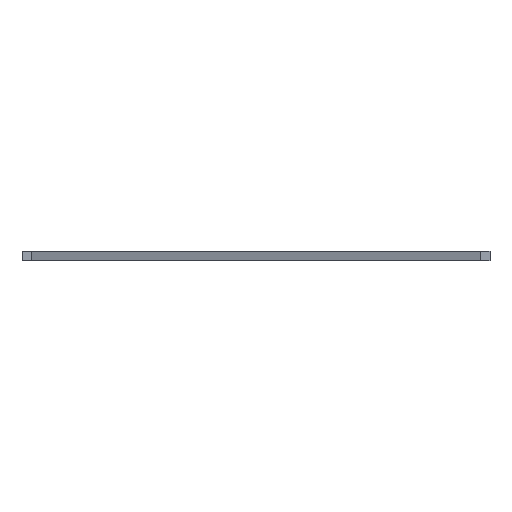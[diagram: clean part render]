
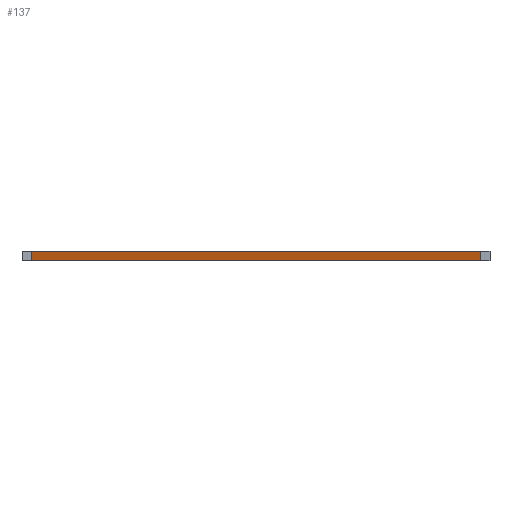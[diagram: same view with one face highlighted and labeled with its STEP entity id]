
A CAD part, left-side view. The second image highlights one B-rep face of the part: STEP entity #137.
In plain terms, the highlighted planar face has unit normal (-0.932, 0.361, 0).
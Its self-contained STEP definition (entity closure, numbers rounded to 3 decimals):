
#21 = EDGE_CURVE('',#22,#24,#26,.T.);
#22 = VERTEX_POINT('',#23);
#23 = CARTESIAN_POINT('',(19.306,18.,0.));
#24 = VERTEX_POINT('',#25);
#25 = CARTESIAN_POINT('',(19.306,18.,18.));
#26 = SURFACE_CURVE('',#27,(#31,#43),.PCURVE_S1.);
#27 = LINE('',#28,#29);
#28 = CARTESIAN_POINT('',(19.306,18.,0.));
#29 = VECTOR('',#30,1.);
#30 = DIRECTION('',(0.,0.,1.));
#31 = PCURVE('',#32,#37);
#32 = PLANE('',#33);
#33 = AXIS2_PLACEMENT_3D('',#34,#35,#36);
#34 = CARTESIAN_POINT('',(19.306,18.,0.));
#35 = DIRECTION('',(0.,1.,0.));
#36 = DIRECTION('',(1.,0.,0.));
#37 = DEFINITIONAL_REPRESENTATION('',(#38),#42);
#38 = LINE('',#39,#40);
#39 = CARTESIAN_POINT('',(0.,0.));
#40 = VECTOR('',#41,1.);
#41 = DIRECTION('',(0.,-1.));
#42 = ( GEOMETRIC_REPRESENTATION_CONTEXT(2) 
PARAMETRIC_REPRESENTATION_CONTEXT() REPRESENTATION_CONTEXT('2D SPACE',''
  ) );
#43 = PCURVE('',#44,#49);
#44 = PLANE('',#45);
#45 = AXIS2_PLACEMENT_3D('',#46,#47,#48);
#46 = CARTESIAN_POINT('',(354.306,882.,0.));
#47 = DIRECTION('',(0.932,-0.362,0.));
#48 = DIRECTION('',(-0.362,-0.932,0.));
#49 = DEFINITIONAL_REPRESENTATION('',(#50),#54);
#50 = LINE('',#51,#52);
#51 = CARTESIAN_POINT('',(926.672,0.));
#52 = VECTOR('',#53,1.);
#53 = DIRECTION('',(0.,-1.));
#54 = ( GEOMETRIC_REPRESENTATION_CONTEXT(2) 
PARAMETRIC_REPRESENTATION_CONTEXT() REPRESENTATION_CONTEXT('2D SPACE',''
  ) );
#72 = PLANE('',#73);
#73 = AXIS2_PLACEMENT_3D('',#74,#75,#76);
#74 = CARTESIAN_POINT('',(525.,358.504,18.));
#75 = DIRECTION('',(0.,0.,1.));
#76 = DIRECTION('',(1.,0.,-0.));
#126 = PLANE('',#127);
#127 = AXIS2_PLACEMENT_3D('',#128,#129,#130);
#128 = CARTESIAN_POINT('',(525.,358.504,0.));
#129 = DIRECTION('',(0.,0.,1.));
#130 = DIRECTION('',(1.,0.,-0.));
#137 = ADVANCED_FACE('',(#138),#44,.F.);
#138 = FACE_BOUND('',#139,.F.);
#139 = EDGE_LOOP('',(#140,#170,#191,#192));
#140 = ORIENTED_EDGE('',*,*,#141,.T.);
#141 = EDGE_CURVE('',#142,#144,#146,.T.);
#142 = VERTEX_POINT('',#143);
#143 = CARTESIAN_POINT('',(354.306,882.,0.));
#144 = VERTEX_POINT('',#145);
#145 = CARTESIAN_POINT('',(354.306,882.,18.));
#146 = SURFACE_CURVE('',#147,(#151,#158),.PCURVE_S1.);
#147 = LINE('',#148,#149);
#148 = CARTESIAN_POINT('',(354.306,882.,0.));
#149 = VECTOR('',#150,1.);
#150 = DIRECTION('',(0.,0.,1.));
#151 = PCURVE('',#44,#152);
#152 = DEFINITIONAL_REPRESENTATION('',(#153),#157);
#153 = LINE('',#154,#155);
#154 = CARTESIAN_POINT('',(0.,0.));
#155 = VECTOR('',#156,1.);
#156 = DIRECTION('',(0.,-1.));
#157 = ( GEOMETRIC_REPRESENTATION_CONTEXT(2) 
PARAMETRIC_REPRESENTATION_CONTEXT() REPRESENTATION_CONTEXT('2D SPACE',''
  ) );
#158 = PCURVE('',#159,#164);
#159 = PLANE('',#160);
#160 = AXIS2_PLACEMENT_3D('',#161,#162,#163);
#161 = CARTESIAN_POINT('',(380.,882.,0.));
#162 = DIRECTION('',(0.,-1.,0.));
#163 = DIRECTION('',(-1.,0.,0.));
#164 = DEFINITIONAL_REPRESENTATION('',(#165),#169);
#165 = LINE('',#166,#167);
#166 = CARTESIAN_POINT('',(25.694,0.));
#167 = VECTOR('',#168,1.);
#168 = DIRECTION('',(0.,-1.));
#169 = ( GEOMETRIC_REPRESENTATION_CONTEXT(2) 
PARAMETRIC_REPRESENTATION_CONTEXT() REPRESENTATION_CONTEXT('2D SPACE',''
  ) );
#170 = ORIENTED_EDGE('',*,*,#171,.T.);
#171 = EDGE_CURVE('',#144,#24,#172,.T.);
#172 = SURFACE_CURVE('',#173,(#177,#184),.PCURVE_S1.);
#173 = LINE('',#174,#175);
#174 = CARTESIAN_POINT('',(354.306,882.,18.));
#175 = VECTOR('',#176,1.);
#176 = DIRECTION('',(-0.362,-0.932,0.));
#177 = PCURVE('',#44,#178);
#178 = DEFINITIONAL_REPRESENTATION('',(#179),#183);
#179 = LINE('',#180,#181);
#180 = CARTESIAN_POINT('',(0.,-18.));
#181 = VECTOR('',#182,1.);
#182 = DIRECTION('',(1.,0.));
#183 = ( GEOMETRIC_REPRESENTATION_CONTEXT(2) 
PARAMETRIC_REPRESENTATION_CONTEXT() REPRESENTATION_CONTEXT('2D SPACE',''
  ) );
#184 = PCURVE('',#72,#185);
#185 = DEFINITIONAL_REPRESENTATION('',(#186),#190);
#186 = LINE('',#187,#188);
#187 = CARTESIAN_POINT('',(-170.694,523.496));
#188 = VECTOR('',#189,1.);
#189 = DIRECTION('',(-0.362,-0.932));
#190 = ( GEOMETRIC_REPRESENTATION_CONTEXT(2) 
PARAMETRIC_REPRESENTATION_CONTEXT() REPRESENTATION_CONTEXT('2D SPACE',''
  ) );
#191 = ORIENTED_EDGE('',*,*,#21,.F.);
#192 = ORIENTED_EDGE('',*,*,#193,.F.);
#193 = EDGE_CURVE('',#142,#22,#194,.T.);
#194 = SURFACE_CURVE('',#195,(#199,#206),.PCURVE_S1.);
#195 = LINE('',#196,#197);
#196 = CARTESIAN_POINT('',(354.306,882.,0.));
#197 = VECTOR('',#198,1.);
#198 = DIRECTION('',(-0.362,-0.932,0.));
#199 = PCURVE('',#44,#200);
#200 = DEFINITIONAL_REPRESENTATION('',(#201),#205);
#201 = LINE('',#202,#203);
#202 = CARTESIAN_POINT('',(0.,0.));
#203 = VECTOR('',#204,1.);
#204 = DIRECTION('',(1.,0.));
#205 = ( GEOMETRIC_REPRESENTATION_CONTEXT(2) 
PARAMETRIC_REPRESENTATION_CONTEXT() REPRESENTATION_CONTEXT('2D SPACE',''
  ) );
#206 = PCURVE('',#126,#207);
#207 = DEFINITIONAL_REPRESENTATION('',(#208),#212);
#208 = LINE('',#209,#210);
#209 = CARTESIAN_POINT('',(-170.694,523.496));
#210 = VECTOR('',#211,1.);
#211 = DIRECTION('',(-0.362,-0.932));
#212 = ( GEOMETRIC_REPRESENTATION_CONTEXT(2) 
PARAMETRIC_REPRESENTATION_CONTEXT() REPRESENTATION_CONTEXT('2D SPACE',''
  ) );
